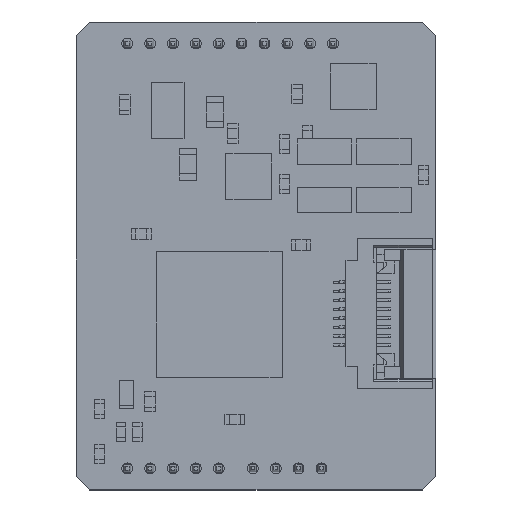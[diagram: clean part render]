
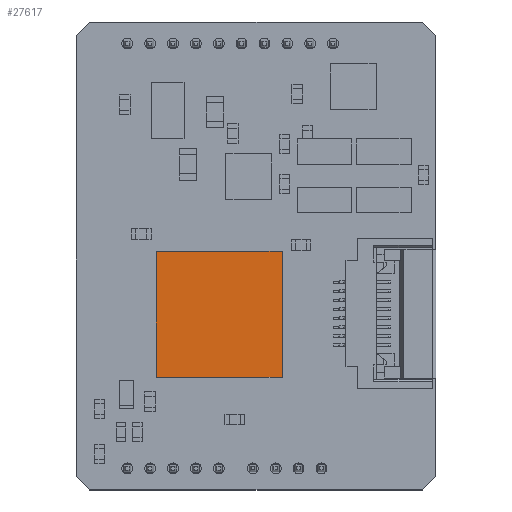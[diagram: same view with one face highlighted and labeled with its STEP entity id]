
A CAD part, top view. The second image highlights one B-rep face of the part: STEP entity #27617.
In plain terms, the highlighted planar face has unit normal (0, 0, 1).
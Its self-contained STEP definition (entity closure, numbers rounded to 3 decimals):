
#790 = LINE ( 'NONE', #46253, #47316 ) ;
#1344 = ORIENTED_EDGE ( 'NONE', *, *, #32291, .F. ) ;
#1375 = EDGE_CURVE ( 'NONE', #25018, #16396, #43191, .T. ) ;
#1381 = EDGE_CURVE ( 'NONE', #5010, #11713, #52204, .T. ) ;
#3132 = VECTOR ( 'NONE', #47698, 1000. ) ;
#3296 = EDGE_CURVE ( 'NONE', #11713, #25018, #790, .T. ) ;
#5010 = VERTEX_POINT ( 'NONE', #44458 ) ;
#7545 = ORIENTED_EDGE ( 'NONE', *, *, #1375, .F. ) ;
#7549 = DIRECTION ( 'NONE',  ( 0., 0., 1. ) ) ;
#11713 = VERTEX_POINT ( 'NONE', #39886 ) ;
#14041 = PLANE ( 'NONE',  #24831 ) ;
#14685 = CARTESIAN_POINT ( 'NONE',  ( 3.5, -3.5, 1.55 ) ) ;
#15142 = CARTESIAN_POINT ( 'NONE',  ( -3.5, -3.5, 1.55 ) ) ;
#15465 = CARTESIAN_POINT ( 'NONE',  ( -3.5, -3.5, 1.55 ) ) ;
#16396 = VERTEX_POINT ( 'NONE', #15142 ) ;
#16969 = FACE_OUTER_BOUND ( 'NONE', #49129, .T. ) ;
#20147 = LINE ( 'NONE', #15465, #33686 ) ;
#24831 = AXIS2_PLACEMENT_3D ( 'NONE', #30837, #7549, #40421 ) ;
#25018 = VERTEX_POINT ( 'NONE', #27374 ) ;
#27374 = CARTESIAN_POINT ( 'NONE',  ( 3.5, -3.5, 1.55 ) ) ;
#27617 = ADVANCED_FACE ( 'N', ( #16969 ), #14041, .T. ) ;
#29365 = ORIENTED_EDGE ( 'NONE', *, *, #3296, .F. ) ;
#30811 = ORIENTED_EDGE ( 'NONE', *, *, #1381, .F. ) ;
#30837 = CARTESIAN_POINT ( 'NONE',  ( 3.5, -3.5, 1.55 ) ) ;
#32291 = EDGE_CURVE ( 'NONE', #16396, #5010, #20147, .T. ) ;
#33686 = VECTOR ( 'NONE', #35913, 1000. ) ;
#34123 = VECTOR ( 'NONE', #51093, 1000. ) ;
#35913 = DIRECTION ( 'NONE',  ( 0., 1., 0. ) ) ;
#39886 = CARTESIAN_POINT ( 'NONE',  ( 3.5, 3.5, 1.55 ) ) ;
#40421 = DIRECTION ( 'NONE',  ( 1., 0., 0. ) ) ;
#43191 = LINE ( 'NONE', #14685, #3132 ) ;
#44458 = CARTESIAN_POINT ( 'NONE',  ( -3.5, 3.5, 1.55 ) ) ;
#46253 = CARTESIAN_POINT ( 'NONE',  ( 3.5, 3.5, 1.55 ) ) ;
#46421 = DIRECTION ( 'NONE',  ( 0., -1., 0. ) ) ;
#47316 = VECTOR ( 'NONE', #46421, 1000. ) ;
#47350 = CARTESIAN_POINT ( 'NONE',  ( -3.5, 3.5, 1.55 ) ) ;
#47698 = DIRECTION ( 'NONE',  ( -1., 0., 0. ) ) ;
#49129 = EDGE_LOOP ( 'NONE', ( #1344, #7545, #29365, #30811 ) ) ;
#51093 = DIRECTION ( 'NONE',  ( 1., 0., 0. ) ) ;
#52204 = LINE ( 'NONE', #47350, #34123 ) ;
